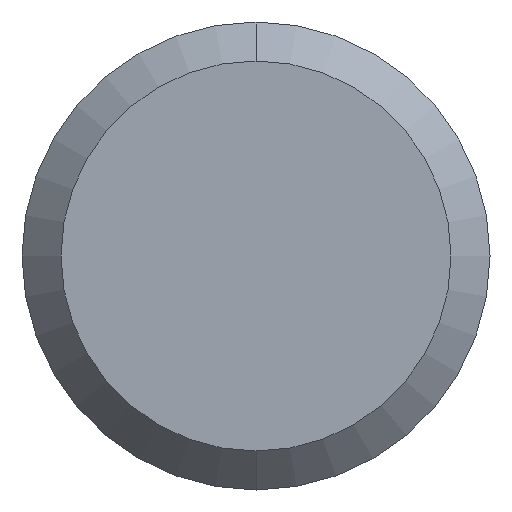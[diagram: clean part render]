
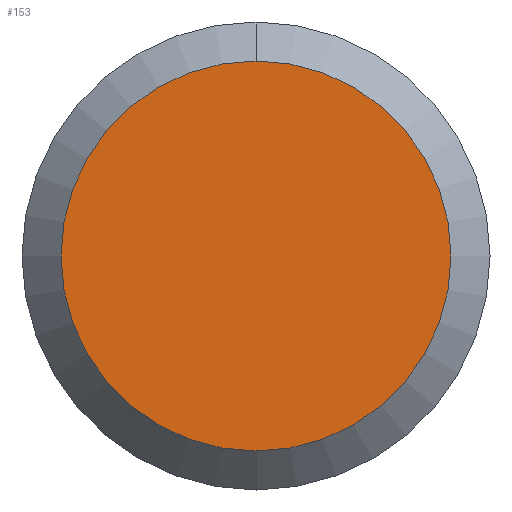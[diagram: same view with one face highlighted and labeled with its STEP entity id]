
A CAD part, front view. The second image highlights one B-rep face of the part: STEP entity #153.
In plain terms, the highlighted planar face has unit normal (0, -1, 0).
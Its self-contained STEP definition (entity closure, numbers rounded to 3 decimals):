
#13 = VERTEX_POINT ( 'NONE', #25 ) ;
#16 = ORIENTED_EDGE ( 'NONE', *, *, #178, .T. ) ;
#24 = VERTEX_POINT ( 'NONE', #58 ) ;
#25 = CARTESIAN_POINT ( 'NONE',  ( 0., 0., -5. ) ) ;
#42 = DIRECTION ( 'NONE',  ( 0., -1., 0. ) ) ;
#44 = DIRECTION ( 'NONE',  ( 0., 0., 1. ) ) ;
#48 = AXIS2_PLACEMENT_3D ( 'NONE', #202, #42, #44 ) ;
#51 = EDGE_CURVE ( 'NONE', #24, #13, #110, .T. ) ;
#58 = CARTESIAN_POINT ( 'NONE',  ( 0., 0., 5. ) ) ;
#67 = EDGE_LOOP ( 'NONE', ( #88, #16 ) ) ;
#88 = ORIENTED_EDGE ( 'NONE', *, *, #51, .T. ) ;
#109 = CARTESIAN_POINT ( 'NONE',  ( 0., 0., 0. ) ) ;
#110 = CIRCLE ( 'NONE', #123, 5. ) ;
#115 = CIRCLE ( 'NONE', #48, 5. ) ;
#122 = AXIS2_PLACEMENT_3D ( 'NONE', #135, #136, #203 ) ;
#123 = AXIS2_PLACEMENT_3D ( 'NONE', #109, #126, #182 ) ;
#126 = DIRECTION ( 'NONE',  ( 0., -1., 0. ) ) ;
#135 = CARTESIAN_POINT ( 'NONE',  ( 0., 0., 0. ) ) ;
#136 = DIRECTION ( 'NONE',  ( 0., 1., 0. ) ) ;
#151 = FACE_OUTER_BOUND ( 'NONE', #67, .T. ) ;
#153 = ADVANCED_FACE ( 'NONE', ( #151 ), #220, .F. ) ;
#178 = EDGE_CURVE ( 'NONE', #13, #24, #115, .T. ) ;
#182 = DIRECTION ( 'NONE',  ( 0., 0., 1. ) ) ;
#202 = CARTESIAN_POINT ( 'NONE',  ( 0., 0., 0. ) ) ;
#203 = DIRECTION ( 'NONE',  ( 1., 0., 0. ) ) ;
#220 = PLANE ( 'NONE',  #122 ) ;
